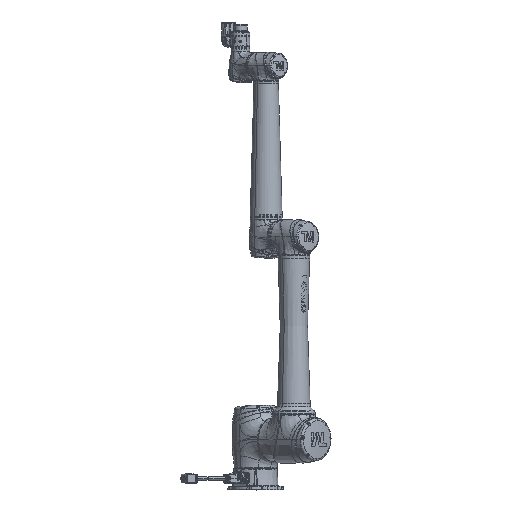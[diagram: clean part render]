
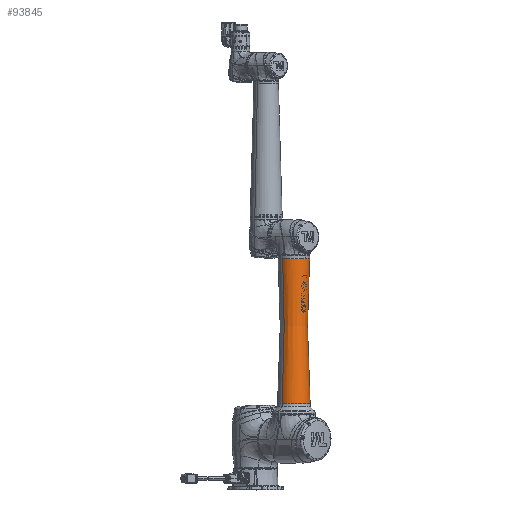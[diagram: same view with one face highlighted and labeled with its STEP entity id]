
A CAD part, top view. The second image highlights one B-rep face of the part: STEP entity #93845.
In plain terms, the highlighted face is a revolution surface.
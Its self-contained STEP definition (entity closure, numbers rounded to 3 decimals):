
#92764=CARTESIAN_POINT('',(0.,133.115,0.));
#92765=DIRECTION('',(0.,-1.,0.));
#92766=DIRECTION('',(1.,0.,0.));
#92767=AXIS2_PLACEMENT_3D('',#92764,#92765,#92766);
#92772=CARTESIAN_POINT('',(0.,-544.471,0.));
#92773=DIRECTION('',(0.,-1.,0.));
#92774=DIRECTION('',(1.,0.,0.));
#92775=AXIS2_PLACEMENT_3D('',#92772,#92773,#92774);
#92838=CARTESIAN_POINT('',(-76.445,-544.471,0.));
#92839=CARTESIAN_POINT('',(-75.383,-516.748,0.));
#92840=CARTESIAN_POINT('',(-68.565,-404.982,
0.));
#92841=CARTESIAN_POINT('',(-61.25,-179.204,
0.));
#92842=CARTESIAN_POINT('',(-65.832,19.63,
0.));
#92843=CARTESIAN_POINT('',(-73.859,133.115,
0.));
#92856=CARTESIAN_POINT('',(76.445,-544.471,0.));
#92857=CARTESIAN_POINT('',(75.383,-516.748,0.));
#92858=CARTESIAN_POINT('',(68.565,-404.982,
0.));
#92859=CARTESIAN_POINT('',(61.25,-179.204,
0.));
#92860=CARTESIAN_POINT('',(65.832,19.63,
0.));
#92861=CARTESIAN_POINT('',(73.859,133.115,
0.));
#93684=CARTESIAN_POINT('',(-76.445,-544.471,
0.));
#93685=CARTESIAN_POINT('',(76.445,-544.471,
0.));
#93686=VERTEX_POINT('',#93684);
#93687=VERTEX_POINT('',#93685);
#93796=CARTESIAN_POINT('',(73.859,133.115,
0.));
#93797=CARTESIAN_POINT('',(-73.859,133.115,
0.));
#93798=VERTEX_POINT('',#93796);
#93799=VERTEX_POINT('',#93797);
#93820=CARTESIAN_POINT('',(75.527,155.668,0.));
#93821=CARTESIAN_POINT('',(75.349,153.362,0.));
#93822=CARTESIAN_POINT('',(66.139,32.465,0.));
#93823=CARTESIAN_POINT('',(61.081,-173.97,0.));
#93824=CARTESIAN_POINT('',(68.64,-407.291,0.));
#93825=CARTESIAN_POINT('',(75.666,-521.362,0.));
#93826=CARTESIAN_POINT('',(76.696,-551.399,0.));
#93831=CARTESIAN_POINT('',(0.,185.93,0.));
#93832=DIRECTION('',(0.,-1.,0.));
#93833=AXIS1_PLACEMENT('',#93831,#93832);
#93834=SURFACE_OF_REVOLUTION('',#93827,#93833);
#93836=ORIENTED_EDGE('',*,*,#93835,.F.);
#93838=ORIENTED_EDGE('',*,*,#93837,.F.);
#93840=ORIENTED_EDGE('',*,*,#93839,.T.);
#93842=ORIENTED_EDGE('',*,*,#93841,.T.);
#93843=EDGE_LOOP('',(#93836,#93838,#93840,#93842));
#93844=FACE_OUTER_BOUND('',#93843,.F.);
#92768=CIRCLE('',#92767,73.859);
#92776=CIRCLE('',#92775,76.445);
#92844=B_SPLINE_CURVE_WITH_KNOTS('',3,(#92838,#92839,#92840,#92841,#92842,
#92843),.UNSPECIFIED.,.F.,.F.,(4,1,1,4),(0.,0.123,
0.495,1.),.UNSPECIFIED.);
#92862=B_SPLINE_CURVE_WITH_KNOTS('',3,(#92856,#92857,#92858,#92859,#92860,
#92861),.UNSPECIFIED.,.F.,.F.,(4,1,1,4),(0.,0.123,
0.495,1.),.UNSPECIFIED.);
#93827=B_SPLINE_CURVE_WITH_KNOTS('',3,(#93820,#93821,#93822,#93823,#93824,
#93825,#93826),.UNSPECIFIED.,.F.,.F.,(4,1,1,1,4),(0.,0.01,
0.516,0.873,1.),.UNSPECIFIED.);
#93835=EDGE_CURVE('',#93798,#93799,#92768,.T.);
#93837=EDGE_CURVE('',#93687,#93798,#92862,.T.);
#93839=EDGE_CURVE('',#93687,#93686,#92776,.T.);
#93841=EDGE_CURVE('',#93686,#93799,#92844,.T.);
#93845=ADVANCED_FACE('',(#93844),#93834,.T.);
